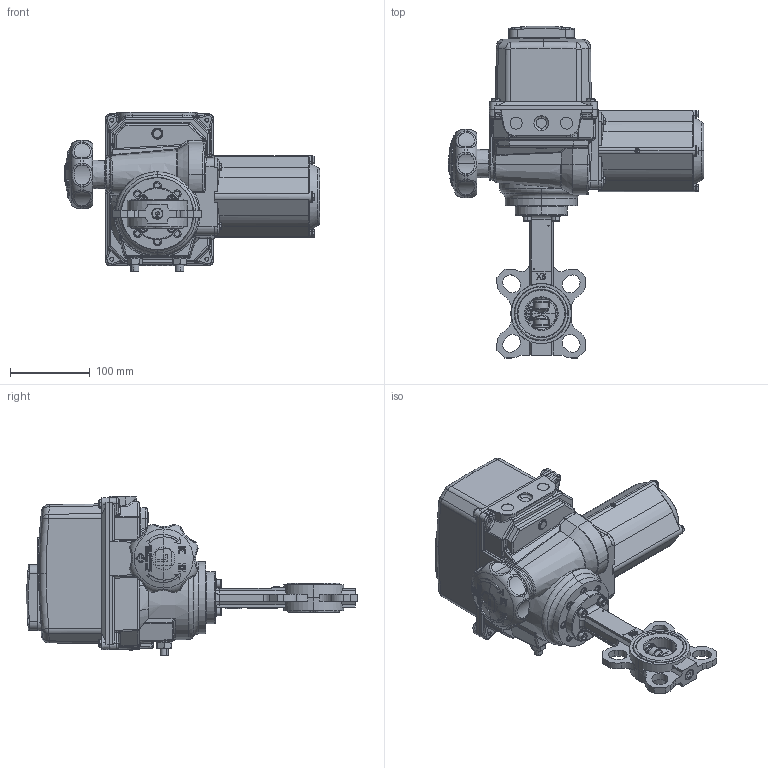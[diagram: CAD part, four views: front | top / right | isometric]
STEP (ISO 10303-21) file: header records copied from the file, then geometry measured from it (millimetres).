
FILE_DESCRIPTION (( 'STEP AP203' ), '1' );
FILE_NAME ('VPI-B04 DN40.step', '2016-09-29T14:38:52', ( 'TECOFI' ), ( '' ), 'SwSTEP 2.0', 'SolidWorks 2014', '' );
FILE_SCHEMA (( 'CONFIG_CONTROL_DESIGN' ));
Products named in the file (1): VPI-B04 DN40
Bounding box: 319.25 x 415.2 x 199.8 mm (x, y, z)
Volume: 5163555.9 mm3; surface area: 307059.6 mm2
Topology: 14 solids, 14 shells, 2799 faces, 7186 edges, 4563 vertices
Faces by surface type: plane 1344, bspline 577, cylinder 497, cone 143, torus 130, sphere 108
Entity records: 115127 total; most frequent: CARTESIAN_POINT 51372, ORIENTED_EDGE 14282, DIRECTION 11847, EDGE_CURVE 7141, VERTEX_POINT 4563, AXIS2_PLACEMENT_3D 4252, LINE 3343, VECTOR 3343
